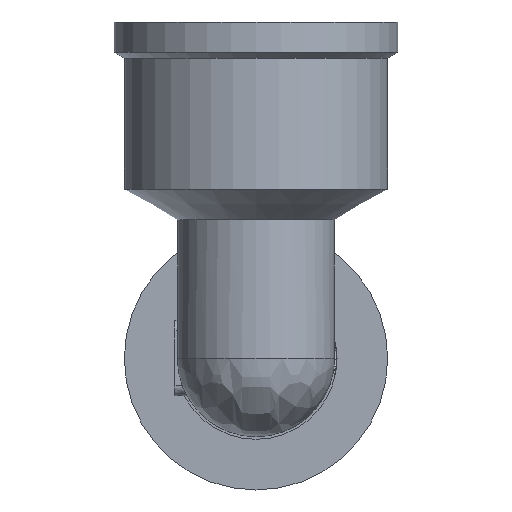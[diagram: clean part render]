
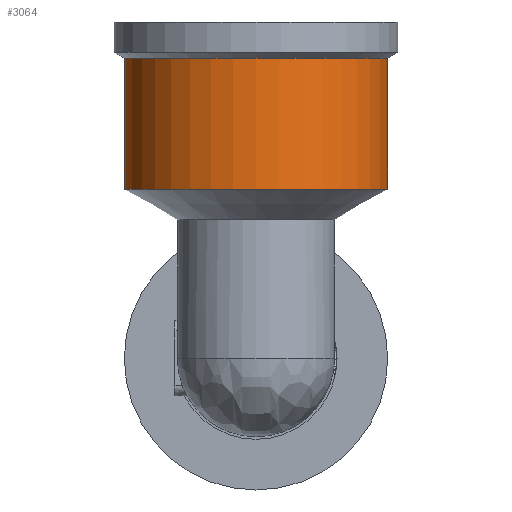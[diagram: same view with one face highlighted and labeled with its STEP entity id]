
A CAD part, front view. The second image highlights one B-rep face of the part: STEP entity #3064.
In plain terms, the highlighted cylindrical face has radius 13 mm (diameter 26 mm), a full revolution.
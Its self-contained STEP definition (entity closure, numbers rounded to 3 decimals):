
#285=CYLINDRICAL_SURFACE('',#3264,13.);
#320=CIRCLE('',#3178,13.);
#321=CIRCLE('',#3179,13.);
#365=CIRCLE('',#3262,13.);
#366=CIRCLE('',#3263,13.);
#503=FACE_OUTER_BOUND('',#675,.T.);
#675=EDGE_LOOP('',(#2523,#2524,#2525,#2526,#2527,#2528));
#887=LINE('',#6136,#1092);
#1092=VECTOR('',#3699,13.);
#1195=VERTEX_POINT('',#4063);
#1196=VERTEX_POINT('',#4065);
#1381=VERTEX_POINT('',#6130);
#1382=VERTEX_POINT('',#6131);
#1520=EDGE_CURVE('',#1195,#1196,#320,.T.);
#1521=EDGE_CURVE('',#1196,#1195,#321,.T.);
#1791=EDGE_CURVE('',#1381,#1382,#365,.T.);
#1792=EDGE_CURVE('',#1382,#1381,#366,.T.);
#1794=EDGE_CURVE('',#1195,#1382,#887,.T.);
#2523=ORIENTED_EDGE('',*,*,#1521,.F.);
#2524=ORIENTED_EDGE('',*,*,#1520,.F.);
#2525=ORIENTED_EDGE('',*,*,#1794,.T.);
#2526=ORIENTED_EDGE('',*,*,#1792,.T.);
#2527=ORIENTED_EDGE('',*,*,#1791,.T.);
#2528=ORIENTED_EDGE('',*,*,#1794,.F.);
#3064=ADVANCED_FACE('',(#503),#285,.T.);
#3178=AXIS2_PLACEMENT_3D('',#4066,#3412,#3413);
#3179=AXIS2_PLACEMENT_3D('',#4067,#3414,#3415);
#3262=AXIS2_PLACEMENT_3D('',#6132,#3692,#3693);
#3263=AXIS2_PLACEMENT_3D('',#6133,#3694,#3695);
#3264=AXIS2_PLACEMENT_3D('',#6135,#3697,#3698);
#3412=DIRECTION('center_axis',(0.,0.,-1.));
#3413=DIRECTION('ref_axis',(1.,0.,0.));
#3414=DIRECTION('center_axis',(0.,0.,-1.));
#3415=DIRECTION('ref_axis',(1.,0.,0.));
#3692=DIRECTION('center_axis',(0.,0.,-1.));
#3693=DIRECTION('ref_axis',(1.,0.,0.));
#3694=DIRECTION('center_axis',(0.,0.,-1.));
#3695=DIRECTION('ref_axis',(1.,0.,0.));
#3697=DIRECTION('center_axis',(0.,0.,-1.));
#3698=DIRECTION('ref_axis',(0.,1.,0.));
#3699=DIRECTION('',(0.,0.,1.));
#4063=CARTESIAN_POINT('',(0.,-56.3,16.7));
#4065=CARTESIAN_POINT('',(0.,-30.3,16.7));
#4066=CARTESIAN_POINT('Origin',(0.,-43.3,16.7));
#4067=CARTESIAN_POINT('Origin',(0.,-43.3,16.7));
#6130=CARTESIAN_POINT('',(0.,-30.3,29.623));
#6131=CARTESIAN_POINT('',(0.,-56.3,29.623));
#6132=CARTESIAN_POINT('Origin',(0.,-43.3,29.623));
#6133=CARTESIAN_POINT('Origin',(0.,-43.3,29.623));
#6135=CARTESIAN_POINT('Origin',(0.,-43.3,23.161));
#6136=CARTESIAN_POINT('',(0.,-56.3,23.161));
